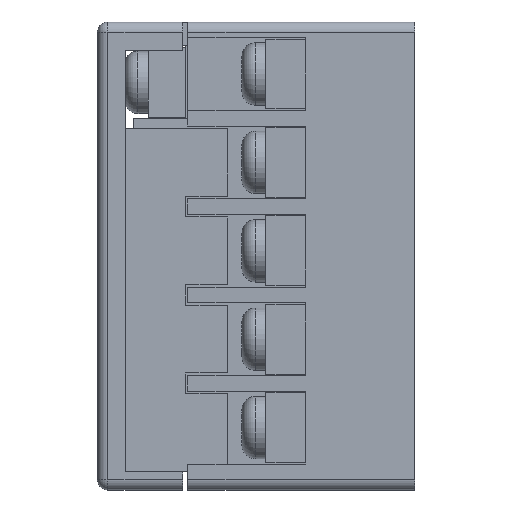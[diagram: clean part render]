
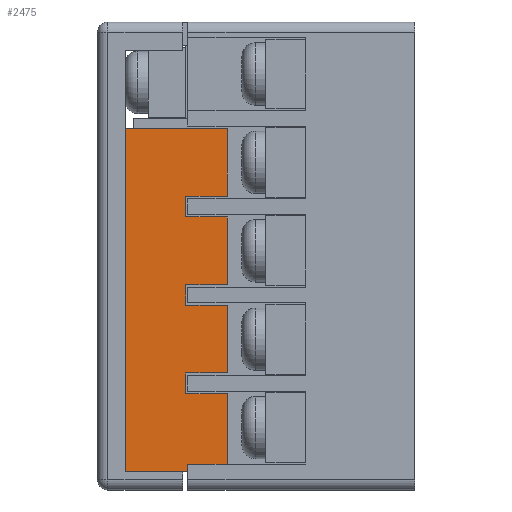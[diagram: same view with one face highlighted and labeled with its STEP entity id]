
A CAD part, left-side view. The second image highlights one B-rep face of the part: STEP entity #2475.
In plain terms, the highlighted planar face has unit normal (-1, 0, 0).
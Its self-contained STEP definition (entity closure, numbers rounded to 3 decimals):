
#154 = LINE ( 'NONE', #4873, #1170 ) ;
#483 = EDGE_CURVE ( 'NONE', #11871, #14569, #6941, .T. ) ;
#502 = EDGE_CURVE ( 'NONE', #5858, #6597, #2304, .T. ) ;
#551 = CARTESIAN_POINT ( 'NONE',  ( -21.8, -2.7, -20.75 ) ) ;
#807 = LINE ( 'NONE', #5526, #7481 ) ;
#862 = CARTESIAN_POINT ( 'NONE',  ( -21.8, -12.5, -20.75 ) ) ;
#904 = DIRECTION ( 'NONE',  ( 0., 1., 0. ) ) ;
#1073 = DIRECTION ( 'NONE',  ( 0., 0., 1. ) ) ;
#1170 = VECTOR ( 'NONE', #9585, 1000. ) ;
#1416 = EDGE_CURVE ( 'NONE', #5662, #9155, #2718, .T. ) ;
#1443 = LINE ( 'NONE', #6157, #11753 ) ;
#1472 = VERTEX_POINT ( 'NONE', #6413 ) ;
#1533 = CARTESIAN_POINT ( 'NONE',  ( -21.8, -12.5, 5.75 ) ) ;
#1569 = CARTESIAN_POINT ( 'NONE',  ( -21.8, -12.5, 5.75 ) ) ;
#1733 = ORIENTED_EDGE ( 'NONE', *, *, #5670, .T. ) ;
#1850 = ORIENTED_EDGE ( 'NONE', *, *, #3364, .F. ) ;
#1908 = AXIS2_PLACEMENT_3D ( 'NONE', #12562, #1977, #6683 ) ;
#1977 = DIRECTION ( 'NONE',  ( -1., 0., 0. ) ) ;
#2079 = ORIENTED_EDGE ( 'NONE', *, *, #4871, .F. ) ;
#2184 = ORIENTED_EDGE ( 'NONE', *, *, #5051, .T. ) ;
#2193 = CARTESIAN_POINT ( 'NONE',  ( -21.8, -12.5, 3.75 ) ) ;
#2304 = LINE ( 'NONE', #7011, #13903 ) ;
#2351 = EDGE_CURVE ( 'NONE', #7612, #1472, #14628, .T. ) ;
#2475 = ADVANCED_FACE ( 'NONE', ( #3129 ), #7839, .T. ) ;
#2583 = CARTESIAN_POINT ( 'NONE',  ( -21.8, -12.5, 3.75 ) ) ;
#2718 = LINE ( 'NONE', #6250, #6044 ) ;
#3129 = FACE_OUTER_BOUND ( 'NONE', #12510, .T. ) ;
#3167 = EDGE_CURVE ( 'NONE', #4217, #8614, #807, .T. ) ;
#3354 = VECTOR ( 'NONE', #904, 1000. ) ;
#3364 = EDGE_CURVE ( 'NONE', #9155, #11581, #13164, .T. ) ;
#3457 = LINE ( 'NONE', #8166, #10598 ) ;
#3659 = ORIENTED_EDGE ( 'NONE', *, *, #502, .T. ) ;
#3864 = CARTESIAN_POINT ( 'NONE',  ( -21.8, -12.5, -20.75 ) ) ;
#4057 = CARTESIAN_POINT ( 'NONE',  ( -21.8, -8.5, -20.75 ) ) ;
#4075 = DIRECTION ( 'NONE',  ( 0., 0., -1. ) ) ;
#4193 = VECTOR ( 'NONE', #5579, 1000. ) ;
#4217 = VERTEX_POINT ( 'NONE', #4952 ) ;
#4258 = CARTESIAN_POINT ( 'NONE',  ( -21.8, -12.5, -20.75 ) ) ;
#4560 = CARTESIAN_POINT ( 'NONE',  ( -21.8, -12.5, 12.25 ) ) ;
#4579 = LINE ( 'NONE', #9293, #13266 ) ;
#4755 = CARTESIAN_POINT ( 'NONE',  ( -21.8, -12.5, 12.25 ) ) ;
#4871 = EDGE_CURVE ( 'NONE', #6995, #7612, #6770, .T. ) ;
#4873 = CARTESIAN_POINT ( 'NONE',  ( -21.8, -12.5, -20.75 ) ) ;
#4905 = CARTESIAN_POINT ( 'NONE',  ( -21.8, -12.5, -11.25 ) ) ;
#4952 = CARTESIAN_POINT ( 'NONE',  ( -21.8, -8.5, -13.25 ) ) ;
#5051 = EDGE_CURVE ( 'NONE', #6995, #11581, #1443, .T. ) ;
#5142 = ORIENTED_EDGE ( 'NONE', *, *, #7613, .T. ) ;
#5144 = CARTESIAN_POINT ( 'NONE',  ( -21.8, -12.5, -2.75 ) ) ;
#5204 = CARTESIAN_POINT ( 'NONE',  ( -21.8, -12.5, -13.25 ) ) ;
#5364 = VECTOR ( 'NONE', #8766, 1000. ) ;
#5434 = VECTOR ( 'NONE', #4075, 1000. ) ;
#5526 = CARTESIAN_POINT ( 'NONE',  ( -21.8, -12.5, -13.25 ) ) ;
#5579 = DIRECTION ( 'NONE',  ( 0., 0., 1. ) ) ;
#5604 = LINE ( 'NONE', #10315, #11730 ) ;
#5662 = VERTEX_POINT ( 'NONE', #10428 ) ;
#5670 = EDGE_CURVE ( 'NONE', #6597, #14569, #15135, .T. ) ;
#5858 = VERTEX_POINT ( 'NONE', #1533 ) ;
#6030 = VERTEX_POINT ( 'NONE', #10250 ) ;
#6044 = VECTOR ( 'NONE', #10968, 1000. ) ;
#6157 = CARTESIAN_POINT ( 'NONE',  ( -21.8, -12.5, -20.75 ) ) ;
#6250 = CARTESIAN_POINT ( 'NONE',  ( -21.8, -8.5, -20.75 ) ) ;
#6273 = DIRECTION ( 'NONE',  ( 0., 1., 0. ) ) ;
#6413 = CARTESIAN_POINT ( 'NONE',  ( -21.8, -8.5, -4.75 ) ) ;
#6474 = ORIENTED_EDGE ( 'NONE', *, *, #12135, .F. ) ;
#6597 = VERTEX_POINT ( 'NONE', #4755 ) ;
#6683 = DIRECTION ( 'NONE',  ( 0., 0., 1. ) ) ;
#6770 = LINE ( 'NONE', #11485, #3354 ) ;
#6941 = LINE ( 'NONE', #11653, #11185 ) ;
#6995 = VERTEX_POINT ( 'NONE', #5144 ) ;
#7011 = CARTESIAN_POINT ( 'NONE',  ( -21.8, -12.5, -20.75 ) ) ;
#7284 = DIRECTION ( 'NONE',  ( 0., -1., 0. ) ) ;
#7481 = VECTOR ( 'NONE', #10228, 1000. ) ;
#7612 = VERTEX_POINT ( 'NONE', #15158 ) ;
#7613 = EDGE_CURVE ( 'NONE', #13988, #8614, #4579, .T. ) ;
#7839 = PLANE ( 'NONE',  #1908 ) ;
#7842 = CARTESIAN_POINT ( 'NONE',  ( -21.8, -12.5, -4.75 ) ) ;
#8166 = CARTESIAN_POINT ( 'NONE',  ( -21.8, -12.5, -11.25 ) ) ;
#8599 = ORIENTED_EDGE ( 'NONE', *, *, #9765, .F. ) ;
#8614 = VERTEX_POINT ( 'NONE', #5204 ) ;
#8766 = DIRECTION ( 'NONE',  ( 0., 0., -1. ) ) ;
#8963 = DIRECTION ( 'NONE',  ( 0., 1., 0. ) ) ;
#9155 = VERTEX_POINT ( 'NONE', #10446 ) ;
#9273 = DIRECTION ( 'NONE',  ( 0., 1., 0. ) ) ;
#9293 = CARTESIAN_POINT ( 'NONE',  ( -21.8, -12.5, -20.75 ) ) ;
#9437 = EDGE_CURVE ( 'NONE', #13988, #9909, #14830, .T. ) ;
#9581 = VECTOR ( 'NONE', #9273, 1000. ) ;
#9585 = DIRECTION ( 'NONE',  ( 0., 1., 0. ) ) ;
#9765 = EDGE_CURVE ( 'NONE', #6030, #4217, #9946, .T. ) ;
#9909 = VERTEX_POINT ( 'NONE', #10335 ) ;
#9946 = LINE ( 'NONE', #14648, #5434 ) ;
#10228 = DIRECTION ( 'NONE',  ( 0., -1., 0. ) ) ;
#10250 = CARTESIAN_POINT ( 'NONE',  ( -21.8, -8.5, -11.25 ) ) ;
#10281 = VERTEX_POINT ( 'NONE', #7842 ) ;
#10315 = CARTESIAN_POINT ( 'NONE',  ( -21.8, -12.5, -4.75 ) ) ;
#10318 = EDGE_CURVE ( 'NONE', #1472, #10281, #5604, .T. ) ;
#10335 = CARTESIAN_POINT ( 'NONE',  ( -21.8, -8.2, -20.75 ) ) ;
#10428 = CARTESIAN_POINT ( 'NONE',  ( -21.8, -8.5, 5.75 ) ) ;
#10446 = CARTESIAN_POINT ( 'NONE',  ( -21.8, -8.5, 3.75 ) ) ;
#10598 = VECTOR ( 'NONE', #12882, 1000. ) ;
#10632 = ORIENTED_EDGE ( 'NONE', *, *, #1416, .F. ) ;
#10869 = DIRECTION ( 'NONE',  ( 0., 0., 1. ) ) ;
#10968 = DIRECTION ( 'NONE',  ( 0., 0., -1. ) ) ;
#11185 = VECTOR ( 'NONE', #1073, 1000. ) ;
#11188 = VECTOR ( 'NONE', #7284, 1000. ) ;
#11346 = EDGE_CURVE ( 'NONE', #5858, #5662, #12154, .T. ) ;
#11485 = CARTESIAN_POINT ( 'NONE',  ( -21.8, -12.5, -2.75 ) ) ;
#11581 = VERTEX_POINT ( 'NONE', #2193 ) ;
#11653 = CARTESIAN_POINT ( 'NONE',  ( -21.8, -2.7, 19.75 ) ) ;
#11690 = ORIENTED_EDGE ( 'NONE', *, *, #483, .F. ) ;
#11724 = DIRECTION ( 'NONE',  ( 0., 0., 1. ) ) ;
#11730 = VECTOR ( 'NONE', #15026, 1000. ) ;
#11753 = VECTOR ( 'NONE', #10869, 1000. ) ;
#11871 = VERTEX_POINT ( 'NONE', #551 ) ;
#11997 = ORIENTED_EDGE ( 'NONE', *, *, #2351, .F. ) ;
#12135 = EDGE_CURVE ( 'NONE', #9909, #11871, #154, .T. ) ;
#12154 = LINE ( 'NONE', #1569, #12995 ) ;
#12398 = ORIENTED_EDGE ( 'NONE', *, *, #10318, .F. ) ;
#12416 = CARTESIAN_POINT ( 'NONE',  ( -21.8, -2.7, 12.25 ) ) ;
#12510 = EDGE_LOOP ( 'NONE', ( #13944, #13251, #12398, #11997, #2079, #2184, #1850, #10632, #12989, #3659, #1733, #11690, #6474, #15274, #5142, #12561, #8599 ) ) ;
#12561 = ORIENTED_EDGE ( 'NONE', *, *, #3167, .F. ) ;
#12562 = CARTESIAN_POINT ( 'NONE',  ( -21.8, -12.5, -20.75 ) ) ;
#12574 = VECTOR ( 'NONE', #8963, 1000. ) ;
#12617 = LINE ( 'NONE', #862, #4193 ) ;
#12882 = DIRECTION ( 'NONE',  ( 0., 1., 0. ) ) ;
#12989 = ORIENTED_EDGE ( 'NONE', *, *, #11346, .F. ) ;
#12995 = VECTOR ( 'NONE', #6273, 1000. ) ;
#13164 = LINE ( 'NONE', #2583, #11188 ) ;
#13251 = ORIENTED_EDGE ( 'NONE', *, *, #14940, .T. ) ;
#13266 = VECTOR ( 'NONE', #14003, 1000. ) ;
#13541 = VERTEX_POINT ( 'NONE', #4905 ) ;
#13903 = VECTOR ( 'NONE', #11724, 1000. ) ;
#13944 = ORIENTED_EDGE ( 'NONE', *, *, #14719, .F. ) ;
#13988 = VERTEX_POINT ( 'NONE', #3864 ) ;
#14003 = DIRECTION ( 'NONE',  ( 0., 0., 1. ) ) ;
#14569 = VERTEX_POINT ( 'NONE', #12416 ) ;
#14628 = LINE ( 'NONE', #4057, #5364 ) ;
#14648 = CARTESIAN_POINT ( 'NONE',  ( -21.8, -8.5, -20.75 ) ) ;
#14719 = EDGE_CURVE ( 'NONE', #13541, #6030, #3457, .T. ) ;
#14830 = LINE ( 'NONE', #4258, #12574 ) ;
#14940 = EDGE_CURVE ( 'NONE', #13541, #10281, #12617, .T. ) ;
#15026 = DIRECTION ( 'NONE',  ( 0., -1., 0. ) ) ;
#15135 = LINE ( 'NONE', #4560, #9581 ) ;
#15158 = CARTESIAN_POINT ( 'NONE',  ( -21.8, -8.5, -2.75 ) ) ;
#15274 = ORIENTED_EDGE ( 'NONE', *, *, #9437, .F. ) ;
